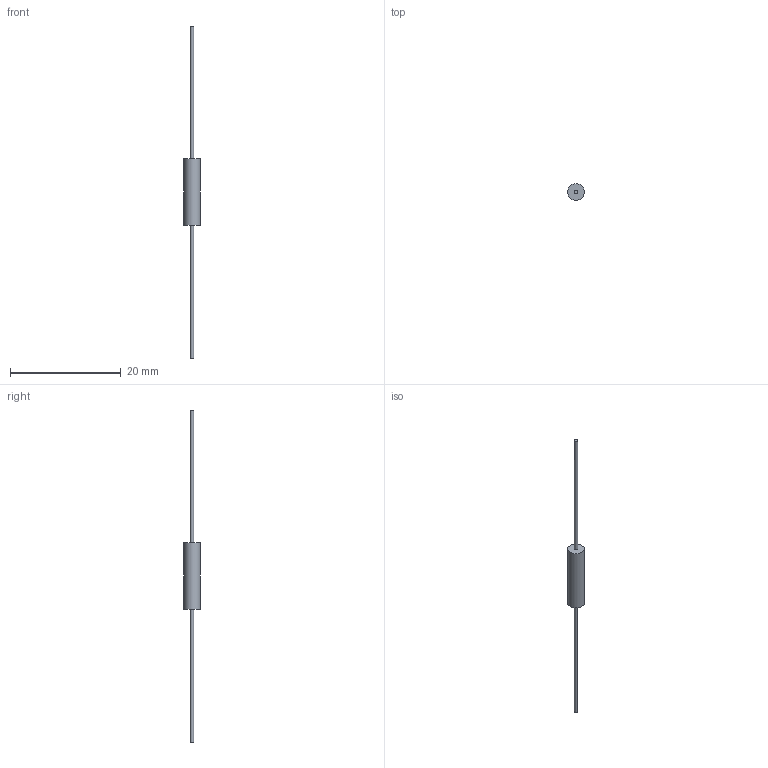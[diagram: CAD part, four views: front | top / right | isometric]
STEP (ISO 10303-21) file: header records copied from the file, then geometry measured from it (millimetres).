
FILE_DESCRIPTION(/* description */ (''),/* implementation_level */ '2;1');
FILE_NAME(/* name */ 'P31-DD.stp',/* time_stamp */ '2018-03-07T13:20:41+01:00',/* author */ (''),/* organization */ (''),/* preprocessor_version */ 'ST-DEVELOPER v14',/* originating_system */ 'SIEMENS PLM Software NX 8.0',/* authorisation */ '');
FILE_SCHEMA (('CONFIG_CONTROL_DESIGN'));
Length unit declared in the file: millimetre
Products named in the file (1): Testzeichnung
Bounding box: 3 x 3 x 60 mm (x, y, z)
Volume: 98.4 mm3; surface area: 217.7 mm2
Topology: 1 solids, 1 shells, 7 faces, 10 edges, 7 vertices
Faces by surface type: plane 4, cylinder 3
Full cylindrical faces by diameter (mm): 0.6 x2, 3 x1
Entity records: 218 total; most frequent: DIRECTION 28, CARTESIAN_POINT 20, AXIS2_PLACEMENT_3D 14, EDGE_LOOP 12, ORIENTED_EDGE 12, FACE_BOUND 10, PERSON_AND_ORGANIZATION 7, ORGANIZATION 7
